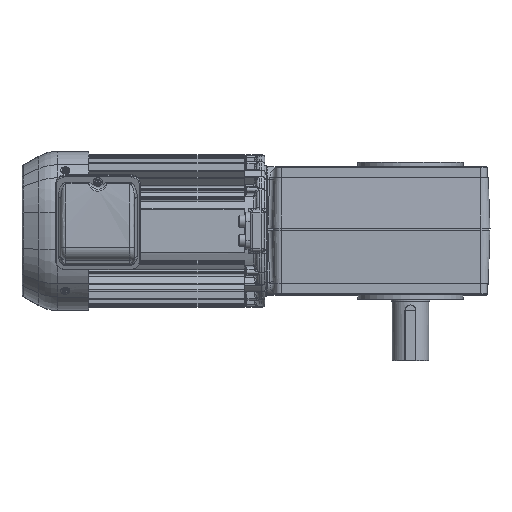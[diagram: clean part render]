
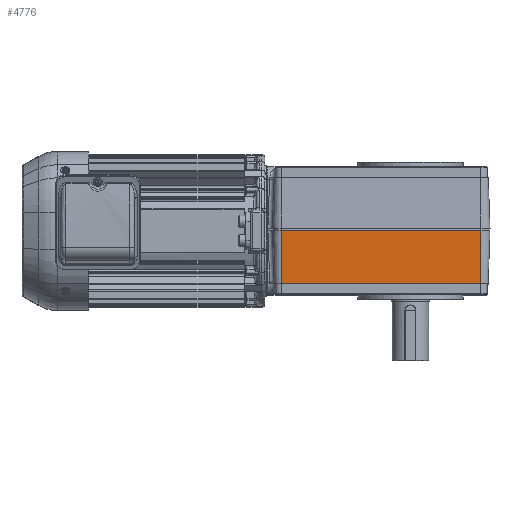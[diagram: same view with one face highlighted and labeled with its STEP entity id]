
A CAD part, top view. The second image highlights one B-rep face of the part: STEP entity #4776.
In plain terms, the highlighted planar face has unit normal (0, -0.035, 0.999).
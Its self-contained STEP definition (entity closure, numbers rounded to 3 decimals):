
#4776 = ADVANCED_FACE( '', ( #10646 ), #10647, .T. );
#10646 = FACE_OUTER_BOUND( '', #34961, .T. );
#10647 = PLANE( '', #34962 );
#34961 = EDGE_LOOP( '', ( #60719, #60720, #60721, #60722 ) );
#34962 = AXIS2_PLACEMENT_3D( '', #60723, #60724, #60725 );
#60719 = ORIENTED_EDGE( '', *, *, #68902, .T. );
#60720 = ORIENTED_EDGE( '', *, *, #69701, .T. );
#60721 = ORIENTED_EDGE( '', *, *, #73368, .F. );
#60722 = ORIENTED_EDGE( '', *, *, #73369, .T. );
#60723 = CARTESIAN_POINT( '', ( 147.5, 71., 250.701 ) );
#60724 = DIRECTION( '', ( 0., -0.035, 0.999 ) );
#60725 = DIRECTION( '', ( 0., 0.999, 0.035 ) );
#68902 = EDGE_CURVE( '', #76725, #76723, #76726, .T. );
#69701 = EDGE_CURVE( '', #76723, #78068, #78070, .T. );
#73368 = EDGE_CURVE( '', #83389, #78068, #83390, .T. );
#73369 = EDGE_CURVE( '', #83389, #76725, #83391, .T. );
#76723 = VERTEX_POINT( '', #88982 );
#76725 = VERTEX_POINT( '', #88984 );
#76726 = LINE( '', #88985, #88986 );
#78068 = VERTEX_POINT( '', #92549 );
#78070 = LINE( '', #92551, #92552 );
#83389 = VERTEX_POINT( '', #108415 );
#83390 = LINE( '', #108416, #108417 );
#83391 = LINE( '', #108418, #108419 );
#88982 = CARTESIAN_POINT( '', ( 259., 70., 250.667 ) );
#88984 = CARTESIAN_POINT( '', ( 259., 12., 248.641 ) );
#88985 = CARTESIAN_POINT( '', ( 259., 71., 250.701 ) );
#88986 = VECTOR( '', #114963, 1000. );
#92549 = CARTESIAN_POINT( '', ( 41., 70., 250.667 ) );
#92551 = CARTESIAN_POINT( '', ( 147.5, 70., 250.667 ) );
#92552 = VECTOR( '', #116166, 1000. );
#108415 = CARTESIAN_POINT( '', ( 41., 12., 248.641 ) );
#108416 = CARTESIAN_POINT( '', ( 41., 71., 250.701 ) );
#108417 = VECTOR( '', #121103, 1000. );
#108418 = CARTESIAN_POINT( '', ( 259., 12., 248.641 ) );
#108419 = VECTOR( '', #121104, 1000. );
#114963 = DIRECTION( '', ( 0., 0.999, 0.035 ) );
#116166 = DIRECTION( '', ( -1., 0., 0. ) );
#121103 = DIRECTION( '', ( 0., 0.999, 0.035 ) );
#121104 = DIRECTION( '', ( 1., 0., 0. ) );
